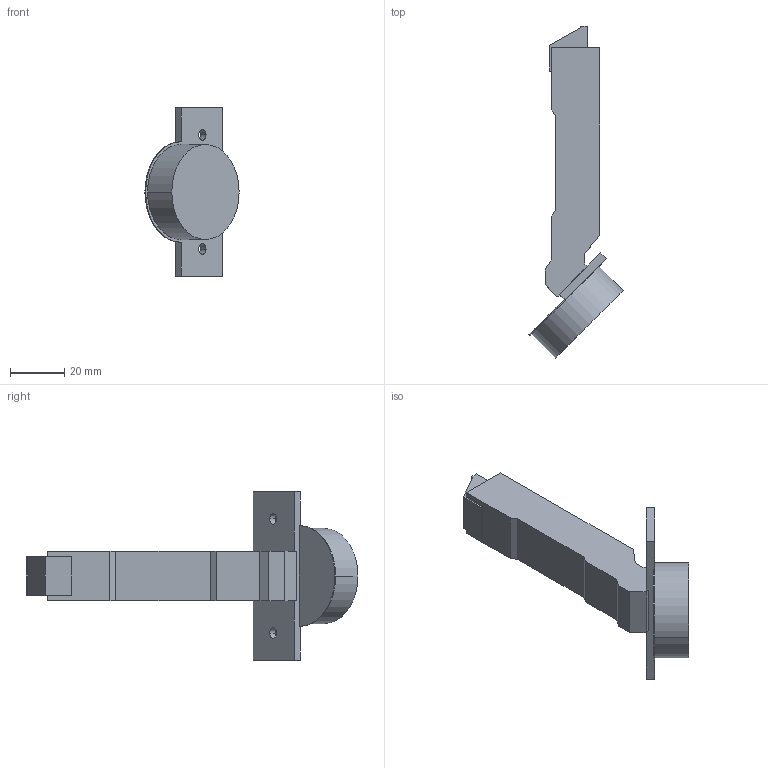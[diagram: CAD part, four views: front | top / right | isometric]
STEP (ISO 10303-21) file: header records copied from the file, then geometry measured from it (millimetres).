
FILE_DESCRIPTION (( 'STEP AP214' ), '1' );
FILE_NAME ('Scharnier T Click-on 120°_-45° G_BB, aufliegend.step', '2010-12-13T09:57:51', ( 'grass' ), ( '' ), 'SwSTEP 2.0', 'SolidWorks 2010', '' );
FILE_SCHEMA (( 'AUTOMOTIVE_DESIGN' ));
Length unit declared in the file: millimetre
Products named in the file (1): Scharnier T Click-on 120°_-45° G_BB, aufliegend
Bounding box: 34.65 x 122.12 x 62 mm (x, y, z)
Volume: 43352.1 mm3; surface area: 12257.1 mm2
Topology: 1 solids, 1 shells, 50 faces, 132 edges, 88 vertices
Faces by surface type: plane 37, cylinder 13
Entity records: 1584 total; most frequent: CARTESIAN_POINT 271, ORIENTED_EDGE 264, DIRECTION 260, EDGE_CURVE 132, VECTOR 106, LINE 106, VERTEX_POINT 88, AXIS2_PLACEMENT_3D 77
